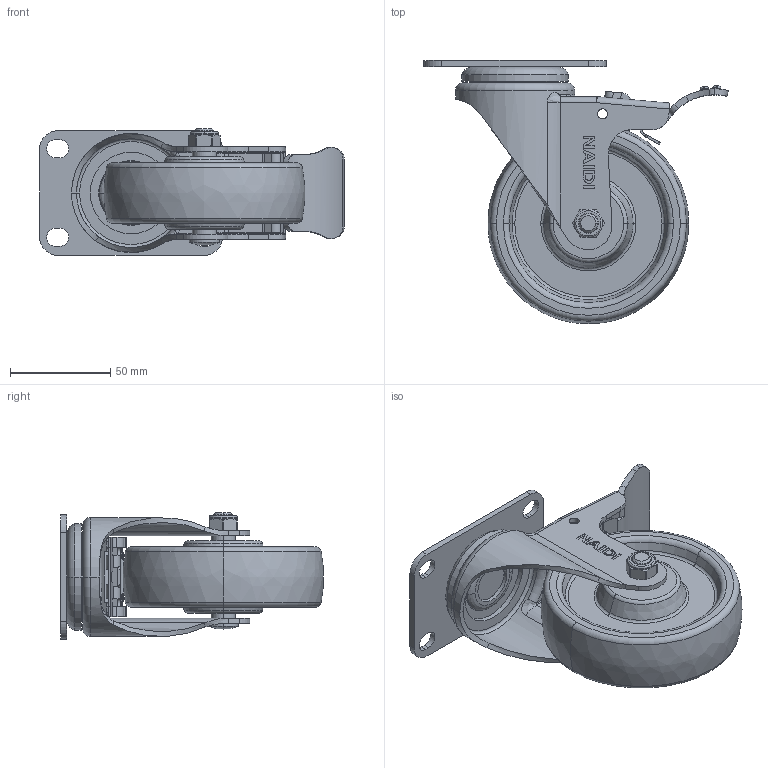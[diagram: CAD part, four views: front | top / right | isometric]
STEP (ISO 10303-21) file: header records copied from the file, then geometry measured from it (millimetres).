
FILE_DESCRIPTION((''),'2;1');
FILE_NAME('C54124L_ASM','2024-10-10T',('Lenovo'),(''),'PRO/ENGINEER BY PARAMETRIC TECHNOLOGY CORPORATION, 2010280','PRO/ENGINEER BY PARAMETRIC TECHNOLOGY CORPORATION, 2010280','');
FILE_SCHEMA(('CONFIG_CONTROL_DESIGN'));
Length unit declared in the file: millimetre
Products named in the file (10): C544-12; C540-01; C540-03; C544-906; 500-54; 5710-020; 5710-031; 540-14; 540-13; C54124L_ASM
Assembly tree (9 placements, depth 2):
  C54124L_ASM
    C544-12
    C540-01
    C540-03
    C544-906
    500-54
    5710-020
    5710-031
    540-14
    540-13
Bounding box: 151.66 x 130.86 x 63 mm (x, y, z)
Volume: 255535.6 mm3; surface area: 85698.4 mm2
Topology: 15 solids, 15 shells, 527 faces, 1214 edges, 729 vertices
Faces by surface type: plane 240, cylinder 158, torus 42, bspline 34, cone 34, extrusion 13, sphere 6
Entity records: 17840 total; most frequent: CARTESIAN_POINT 5776, DIRECTION 2495, ORIENTED_EDGE 2424, EDGE_CURVE 1212, AXIS2_PLACEMENT_3D 907, VERTEX_POINT 729, VECTOR 681, LINE 668
